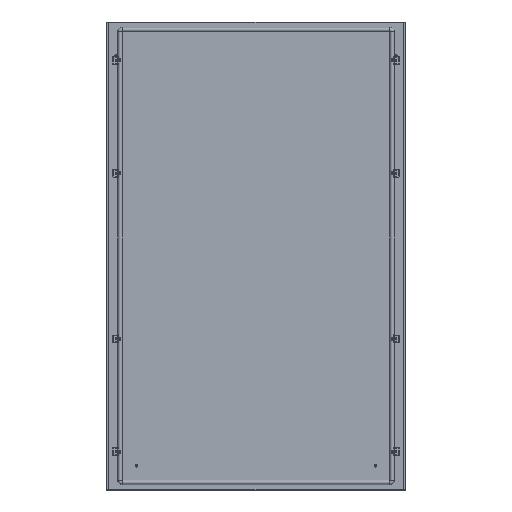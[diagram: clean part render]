
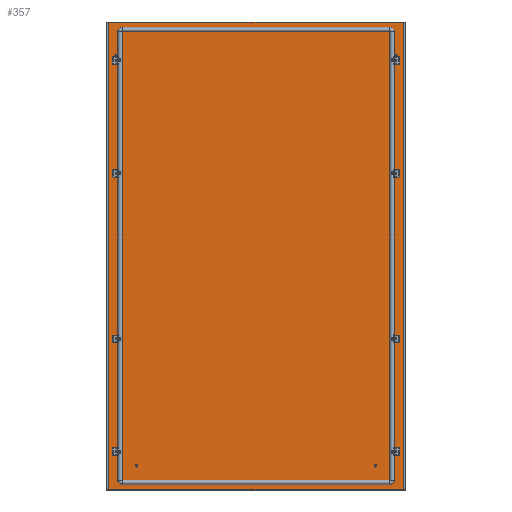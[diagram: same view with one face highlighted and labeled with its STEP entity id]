
A CAD part, top view. The second image highlights one B-rep face of the part: STEP entity #357.
In plain terms, the highlighted planar face has unit normal (0, 0, 1).
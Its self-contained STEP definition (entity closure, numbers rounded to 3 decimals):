
#357 = ADVANCED_FACE('',(#358,#456,#467,#478,#498,#518,#529,#540,#560),
  #580,.F.);
#358 = FACE_BOUND('',#359,.T.);
#359 = EDGE_LOOP('',(#360,#370,#378,#386,#394,#402,#410,#418,#426,#434,
    #442,#450));
#360 = ORIENTED_EDGE('',*,*,#361,.F.);
#361 = EDGE_CURVE('',#362,#364,#366,.T.);
#362 = VERTEX_POINT('',#363);
#363 = CARTESIAN_POINT('',(-495.5,777.5,0.));
#364 = VERTEX_POINT('',#365);
#365 = CARTESIAN_POINT('',(-495.3,777.5,0.));
#366 = LINE('',#367,#368);
#367 = CARTESIAN_POINT('',(0.,777.5,0.)
  );
#368 = VECTOR('',#369,1.);
#369 = DIRECTION('',(1.,0.,0.));
#370 = ORIENTED_EDGE('',*,*,#371,.T.);
#371 = EDGE_CURVE('',#362,#372,#374,.T.);
#372 = VERTEX_POINT('',#373);
#373 = CARTESIAN_POINT('',(-495.5,-777.5,0.));
#374 = LINE('',#375,#376);
#375 = CARTESIAN_POINT('',(-495.5,0.,
    0.));
#376 = VECTOR('',#377,1.);
#377 = DIRECTION('',(0.,-1.,0.));
#378 = ORIENTED_EDGE('',*,*,#379,.T.);
#379 = EDGE_CURVE('',#372,#380,#382,.T.);
#380 = VERTEX_POINT('',#381);
#381 = CARTESIAN_POINT('',(-495.3,-777.5,0.));
#382 = LINE('',#383,#384);
#383 = CARTESIAN_POINT('',(0.,-777.5,0.
    ));
#384 = VECTOR('',#385,1.);
#385 = DIRECTION('',(1.,-0.,-0.));
#386 = ORIENTED_EDGE('',*,*,#387,.F.);
#387 = EDGE_CURVE('',#388,#380,#390,.T.);
#388 = VERTEX_POINT('',#389);
#389 = CARTESIAN_POINT('',(-495.3,-776.,0.));
#390 = LINE('',#391,#392);
#391 = CARTESIAN_POINT('',(-495.3,0.,
    0.));
#392 = VECTOR('',#393,1.);
#393 = DIRECTION('',(0.,-1.,0.));
#394 = ORIENTED_EDGE('',*,*,#395,.T.);
#395 = EDGE_CURVE('',#388,#396,#398,.T.);
#396 = VERTEX_POINT('',#397);
#397 = CARTESIAN_POINT('',(495.3,-776.,0.));
#398 = LINE('',#399,#400);
#399 = CARTESIAN_POINT('',(0.,-776.,0.)
  );
#400 = VECTOR('',#401,1.);
#401 = DIRECTION('',(1.,-0.,-0.));
#402 = ORIENTED_EDGE('',*,*,#403,.T.);
#403 = EDGE_CURVE('',#396,#404,#406,.T.);
#404 = VERTEX_POINT('',#405);
#405 = CARTESIAN_POINT('',(495.3,-777.5,0.));
#406 = LINE('',#407,#408);
#407 = CARTESIAN_POINT('',(495.3,-776.,0.));
#408 = VECTOR('',#409,1.);
#409 = DIRECTION('',(0.,-1.,0.));
#410 = ORIENTED_EDGE('',*,*,#411,.F.);
#411 = EDGE_CURVE('',#412,#404,#414,.T.);
#412 = VERTEX_POINT('',#413);
#413 = CARTESIAN_POINT('',(495.5,-777.5,0.));
#414 = LINE('',#415,#416);
#415 = CARTESIAN_POINT('',(0.,-777.5,0.
    ));
#416 = VECTOR('',#417,1.);
#417 = DIRECTION('',(-1.,0.,0.));
#418 = ORIENTED_EDGE('',*,*,#419,.T.);
#419 = EDGE_CURVE('',#412,#420,#422,.T.);
#420 = VERTEX_POINT('',#421);
#421 = CARTESIAN_POINT('',(495.5,777.5,0.));
#422 = LINE('',#423,#424);
#423 = CARTESIAN_POINT('',(495.5,0.,
    0.));
#424 = VECTOR('',#425,1.);
#425 = DIRECTION('',(0.,1.,0.));
#426 = ORIENTED_EDGE('',*,*,#427,.T.);
#427 = EDGE_CURVE('',#420,#428,#430,.T.);
#428 = VERTEX_POINT('',#429);
#429 = CARTESIAN_POINT('',(495.3,777.5,0.));
#430 = LINE('',#431,#432);
#431 = CARTESIAN_POINT('',(0.,777.5,0.)
  );
#432 = VECTOR('',#433,1.);
#433 = DIRECTION('',(-1.,0.,0.));
#434 = ORIENTED_EDGE('',*,*,#435,.F.);
#435 = EDGE_CURVE('',#436,#428,#438,.T.);
#436 = VERTEX_POINT('',#437);
#437 = CARTESIAN_POINT('',(495.3,776.,0.));
#438 = LINE('',#439,#440);
#439 = CARTESIAN_POINT('',(495.3,0.,
    0.));
#440 = VECTOR('',#441,1.);
#441 = DIRECTION('',(0.,1.,0.));
#442 = ORIENTED_EDGE('',*,*,#443,.T.);
#443 = EDGE_CURVE('',#436,#444,#446,.T.);
#444 = VERTEX_POINT('',#445);
#445 = CARTESIAN_POINT('',(-495.3,776.,0.));
#446 = LINE('',#447,#448);
#447 = CARTESIAN_POINT('',(0.,776.,0.)
  );
#448 = VECTOR('',#449,1.);
#449 = DIRECTION('',(-1.,0.,0.));
#450 = ORIENTED_EDGE('',*,*,#451,.T.);
#451 = EDGE_CURVE('',#444,#364,#452,.T.);
#452 = LINE('',#453,#454);
#453 = CARTESIAN_POINT('',(-495.3,776.,0.));
#454 = VECTOR('',#455,1.);
#455 = DIRECTION('',(0.,1.,0.));
#456 = FACE_BOUND('',#457,.T.);
#457 = EDGE_LOOP('',(#458));
#458 = ORIENTED_EDGE('',*,*,#459,.T.);
#459 = EDGE_CURVE('',#460,#460,#462,.T.);
#460 = VERTEX_POINT('',#461);
#461 = CARTESIAN_POINT('',(-464.5,-270.25,
    0.));
#462 = CIRCLE('',#463,4.75);
#463 = AXIS2_PLACEMENT_3D('',#464,#465,#466);
#464 = CARTESIAN_POINT('',(-464.5,-275.,0.));
#465 = DIRECTION('',(0.,0.,-1.));
#466 = DIRECTION('',(0.,1.,0.));
#467 = FACE_BOUND('',#468,.T.);
#468 = EDGE_LOOP('',(#469));
#469 = ORIENTED_EDGE('',*,*,#470,.T.);
#470 = EDGE_CURVE('',#471,#471,#473,.T.);
#471 = VERTEX_POINT('',#472);
#472 = CARTESIAN_POINT('',(464.5,-279.75,
    0.));
#473 = CIRCLE('',#474,4.75);
#474 = AXIS2_PLACEMENT_3D('',#475,#476,#477);
#475 = CARTESIAN_POINT('',(464.5,-275.,0.));
#476 = DIRECTION('',(-0.,0.,-1.));
#477 = DIRECTION('',(0.,-1.,0.));
#478 = FACE_BOUND('',#479,.T.);
#479 = EDGE_LOOP('',(#480,#491));
#480 = ORIENTED_EDGE('',*,*,#481,.F.);
#481 = EDGE_CURVE('',#482,#484,#486,.T.);
#482 = VERTEX_POINT('',#483);
#483 = CARTESIAN_POINT('',(-464.5,654.75,
    0.));
#484 = VERTEX_POINT('',#485);
#485 = CARTESIAN_POINT('',(-464.5,645.25,
    0.));
#486 = CIRCLE('',#487,4.75);
#487 = AXIS2_PLACEMENT_3D('',#488,#489,#490);
#488 = CARTESIAN_POINT('',(-464.5,650.,0.));
#489 = DIRECTION('',(0.,0.,1.));
#490 = DIRECTION('',(0.,1.,0.));
#491 = ORIENTED_EDGE('',*,*,#492,.F.);
#492 = EDGE_CURVE('',#484,#482,#493,.T.);
#493 = CIRCLE('',#494,4.75);
#494 = AXIS2_PLACEMENT_3D('',#495,#496,#497);
#495 = CARTESIAN_POINT('',(-464.5,650.,0.));
#496 = DIRECTION('',(0.,0.,1.));
#497 = DIRECTION('',(0.,1.,0.));
#498 = FACE_BOUND('',#499,.T.);
#499 = EDGE_LOOP('',(#500,#511));
#500 = ORIENTED_EDGE('',*,*,#501,.F.);
#501 = EDGE_CURVE('',#502,#504,#506,.T.);
#502 = VERTEX_POINT('',#503);
#503 = CARTESIAN_POINT('',(464.5,645.25,
    0.));
#504 = VERTEX_POINT('',#505);
#505 = CARTESIAN_POINT('',(464.5,654.75,
    0.));
#506 = CIRCLE('',#507,4.75);
#507 = AXIS2_PLACEMENT_3D('',#508,#509,#510);
#508 = CARTESIAN_POINT('',(464.5,650.,0.));
#509 = DIRECTION('',(0.,0.,1.));
#510 = DIRECTION('',(0.,-1.,0.));
#511 = ORIENTED_EDGE('',*,*,#512,.F.);
#512 = EDGE_CURVE('',#504,#502,#513,.T.);
#513 = CIRCLE('',#514,4.75);
#514 = AXIS2_PLACEMENT_3D('',#515,#516,#517);
#515 = CARTESIAN_POINT('',(464.5,650.,0.));
#516 = DIRECTION('',(0.,0.,1.));
#517 = DIRECTION('',(0.,-1.,0.));
#518 = FACE_BOUND('',#519,.T.);
#519 = EDGE_LOOP('',(#520));
#520 = ORIENTED_EDGE('',*,*,#521,.T.);
#521 = EDGE_CURVE('',#522,#522,#524,.T.);
#522 = VERTEX_POINT('',#523);
#523 = CARTESIAN_POINT('',(-464.5,-645.25,
    0.));
#524 = CIRCLE('',#525,4.75);
#525 = AXIS2_PLACEMENT_3D('',#526,#527,#528);
#526 = CARTESIAN_POINT('',(-464.5,-650.,0.));
#527 = DIRECTION('',(0.,0.,-1.));
#528 = DIRECTION('',(0.,1.,0.));
#529 = FACE_BOUND('',#530,.T.);
#530 = EDGE_LOOP('',(#531));
#531 = ORIENTED_EDGE('',*,*,#532,.T.);
#532 = EDGE_CURVE('',#533,#533,#535,.T.);
#533 = VERTEX_POINT('',#534);
#534 = CARTESIAN_POINT('',(464.5,-654.75,
    0.));
#535 = CIRCLE('',#536,4.75);
#536 = AXIS2_PLACEMENT_3D('',#537,#538,#539);
#537 = CARTESIAN_POINT('',(464.5,-650.,0.));
#538 = DIRECTION('',(-0.,0.,-1.));
#539 = DIRECTION('',(0.,-1.,0.));
#540 = FACE_BOUND('',#541,.T.);
#541 = EDGE_LOOP('',(#542,#553));
#542 = ORIENTED_EDGE('',*,*,#543,.F.);
#543 = EDGE_CURVE('',#544,#546,#548,.T.);
#544 = VERTEX_POINT('',#545);
#545 = CARTESIAN_POINT('',(464.5,270.25,
    0.));
#546 = VERTEX_POINT('',#547);
#547 = CARTESIAN_POINT('',(464.5,279.75,
    0.));
#548 = CIRCLE('',#549,4.75);
#549 = AXIS2_PLACEMENT_3D('',#550,#551,#552);
#550 = CARTESIAN_POINT('',(464.5,275.,0.));
#551 = DIRECTION('',(0.,0.,1.));
#552 = DIRECTION('',(0.,-1.,0.));
#553 = ORIENTED_EDGE('',*,*,#554,.F.);
#554 = EDGE_CURVE('',#546,#544,#555,.T.);
#555 = CIRCLE('',#556,4.75);
#556 = AXIS2_PLACEMENT_3D('',#557,#558,#559);
#557 = CARTESIAN_POINT('',(464.5,275.,0.));
#558 = DIRECTION('',(0.,0.,1.));
#559 = DIRECTION('',(0.,-1.,0.));
#560 = FACE_BOUND('',#561,.T.);
#561 = EDGE_LOOP('',(#562,#573));
#562 = ORIENTED_EDGE('',*,*,#563,.F.);
#563 = EDGE_CURVE('',#564,#566,#568,.T.);
#564 = VERTEX_POINT('',#565);
#565 = CARTESIAN_POINT('',(-464.5,279.75,
    0.));
#566 = VERTEX_POINT('',#567);
#567 = CARTESIAN_POINT('',(-464.5,270.25,
    0.));
#568 = CIRCLE('',#569,4.75);
#569 = AXIS2_PLACEMENT_3D('',#570,#571,#572);
#570 = CARTESIAN_POINT('',(-464.5,275.,0.));
#571 = DIRECTION('',(0.,0.,1.));
#572 = DIRECTION('',(0.,1.,0.));
#573 = ORIENTED_EDGE('',*,*,#574,.F.);
#574 = EDGE_CURVE('',#566,#564,#575,.T.);
#575 = CIRCLE('',#576,4.75);
#576 = AXIS2_PLACEMENT_3D('',#577,#578,#579);
#577 = CARTESIAN_POINT('',(-464.5,275.,0.));
#578 = DIRECTION('',(0.,0.,1.));
#579 = DIRECTION('',(0.,1.,0.));
#580 = PLANE('',#581);
#581 = AXIS2_PLACEMENT_3D('',#582,#583,#584);
#582 = CARTESIAN_POINT('',(0.,0.,
    0.));
#583 = DIRECTION('',(0.,0.,-1.));
#584 = DIRECTION('',(-1.,0.,0.));
